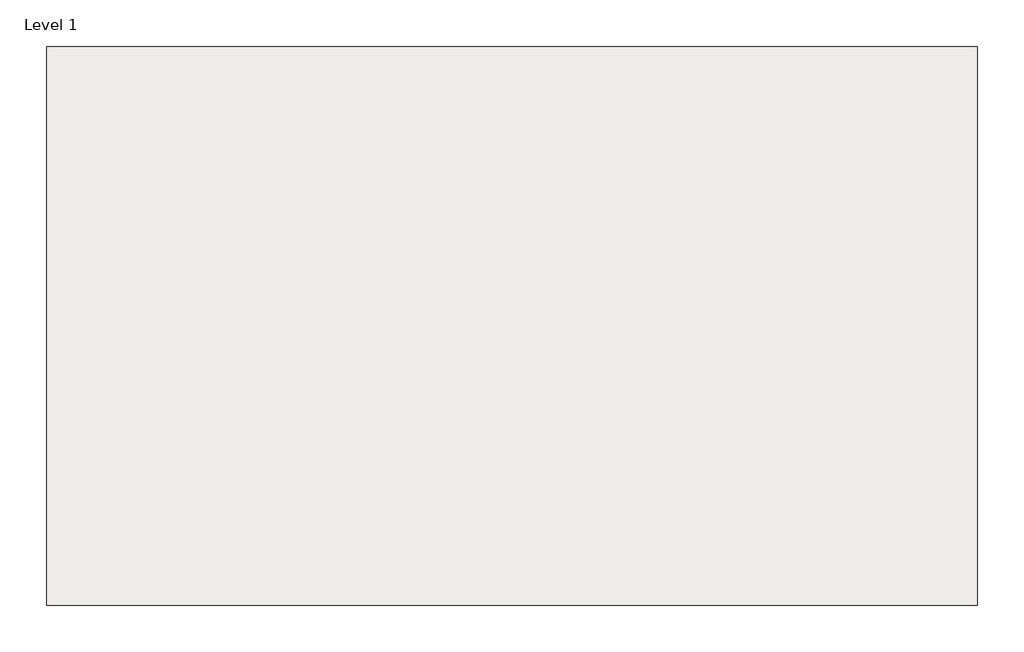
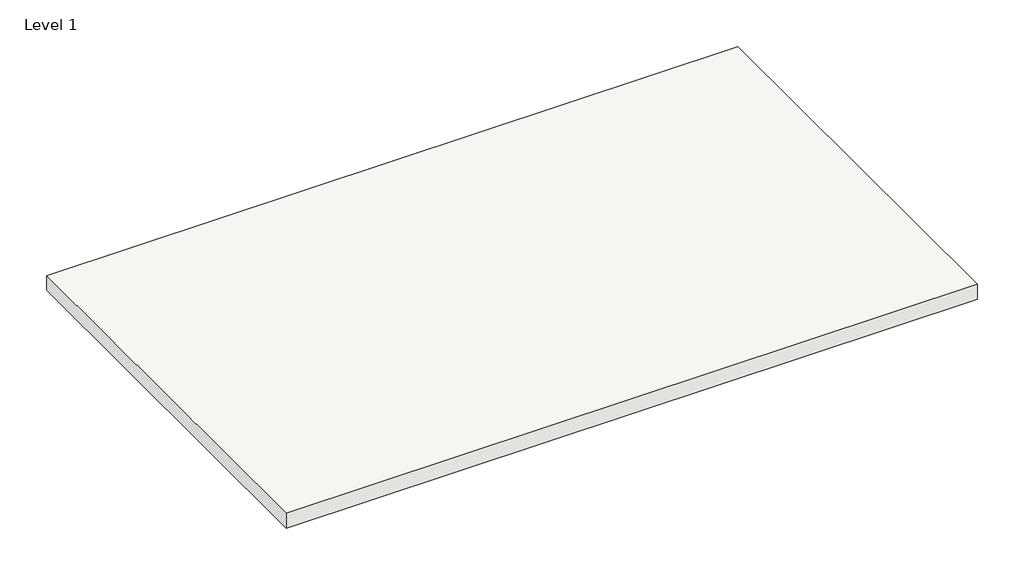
# One storey, incomplete: 1 slab.
"""IFC4 building model written with IfcOpenShell, lengths in millimetres."""

from ifc_helpers import new_model, si_unit, frame, origin, place, context, project, spatial, polyline, outline, extrude, element, save

model = new_model("IFC4")

# Units and contexts
model_context = context("Model", 3, world=origin())
ifc_project = project(units=[si_unit("LENGTHUNIT", "METRE", prefix="MILLI")], contexts=[model_context])

# Site, building, storey
site = spatial("IfcSite", under=ifc_project)
building = spatial("IfcBuilding", under=site)
storey = spatial("IfcBuildingStorey", under=building, Name="Level 1", Elevation=0.0)

# Slab
placement = place(None, origin())
element("IfcSlab", 1, ObjectType="Wood Joist 10\" - Wood Finish", at=placement, inside=storey, context=model_context, shape_type="SweptSolid", body=[
    extrude(outline(polyline([(-10693.6472578, -1274.6763008), (-10693.6472578, 6040.5236992), (1498.3527422, 6040.5236992), (1498.3527422, -1274.6763008), (-10693.6472578, -1274.6763008)])), frame((0.0, 0.0, -273.05), z_axis=(0.0, 0.0, 1.0), x_axis=(1.0, 0.0, 0.0)), (0.0, 0.0, 1.0), 273.05),
])

save(model, "model.ifc")
